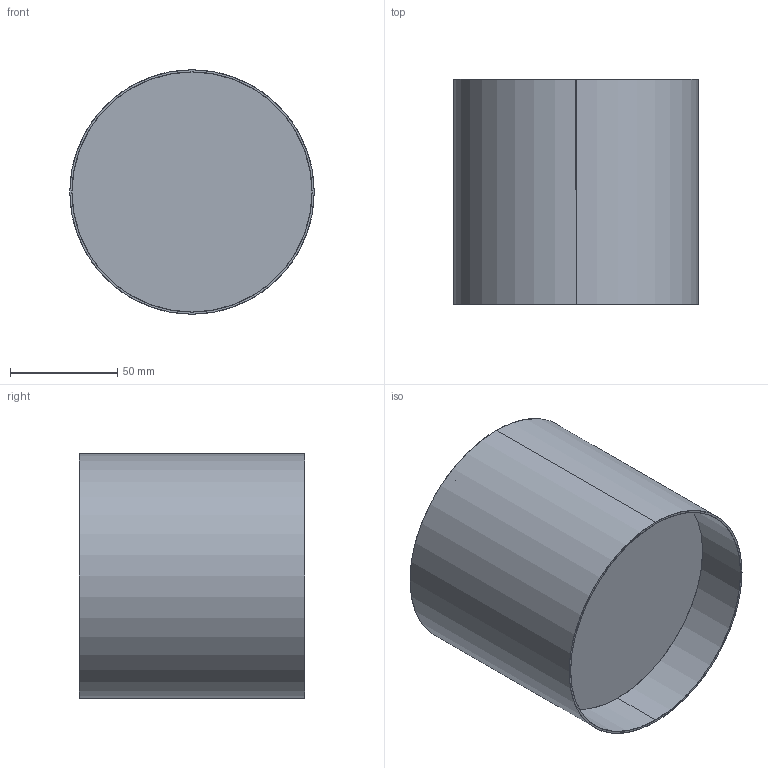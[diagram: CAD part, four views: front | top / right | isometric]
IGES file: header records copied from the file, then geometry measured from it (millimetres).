
Start section: SolidWorks IGES file using analytic representation for surfaces
Global section: file name: F:\GABRYSIA\MODELE 3D\BIT-S-9482-9484-9486-WWW\BIT-S-9482-9484-9486.IGS; native system: SolidWorks 2017; preprocessor: SolidWorks 2017; author: Togambi; date: 201130.124729; units: millimetre
Bounding box: 114 x 105 x 114 mm (x, y, z)
Surface area: 148969.7 mm2 (no closed solid volume)
Topology: 0 solids, 0 shells, 34 faces, 1000 edges, 992 vertices
Faces by surface type: revolution 18, bspline 16
